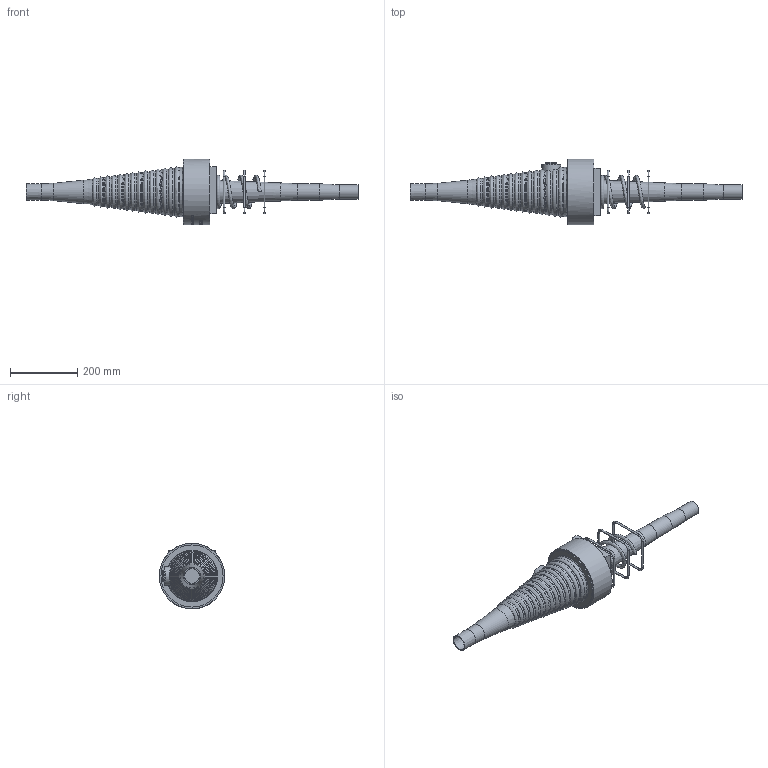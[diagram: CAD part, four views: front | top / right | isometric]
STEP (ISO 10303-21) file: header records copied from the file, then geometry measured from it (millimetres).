
FILE_DESCRIPTION(/* description */ (''),/* implementation_level */ '2;1');
FILE_NAME(/* name */ 'Z:\04 Publications\05 Give-out\BBR\6_3D_Models\BBR VT CONA CMI\BBR VT CONA CMI SP\00206\BBR VT CONA CMI SP 206_Couler K Assembly_CS-34,28.stp',/* time_stamp */ '2017-05-05T13:24:39+02:00',/* author */ ('IP'),/* organization */ (''),/* preprocessor_version */ 'ST-DEVELOPER v16.1',/* originating_system */ 'Autodesk Inventor 2016',/* authorisation */ '');
FILE_SCHEMA (('AUTOMOTIVE_DESIGN { 1 0 10303 214 3 1 1 }'));
Length unit declared in the file: millimetre
Products named in the file (1): BBR VT CONA CMI SP 206_Couler K Assembly_CS-34,28
Bounding box: 988.33 x 194.43 x 195.1 mm (x, y, z)
Volume: 4177907.3 mm3; surface area: 556005.7 mm2
Topology: 6 solids, 6 shells, 913 faces, 2338 edges, 1493 vertices
Faces by surface type: bspline 426, plane 249, torus 109, cylinder 80, cone 37, sphere 12
Full cylindrical faces by diameter (mm): 6 x12, 34.158 x1, 42 x1, 49 x1, 50 x1, 57 x1, 195 x1
Entity records: 38770 total; most frequent: CARTESIAN_POINT 19490, ORIENTED_EDGE 4382, DIRECTION 2797, EDGE_CURVE 2190, VERTEX_POINT 1486, EDGE_LOOP 1119, AXIS2_PLACEMENT_3D 971, FACE_OUTER_BOUND 913
